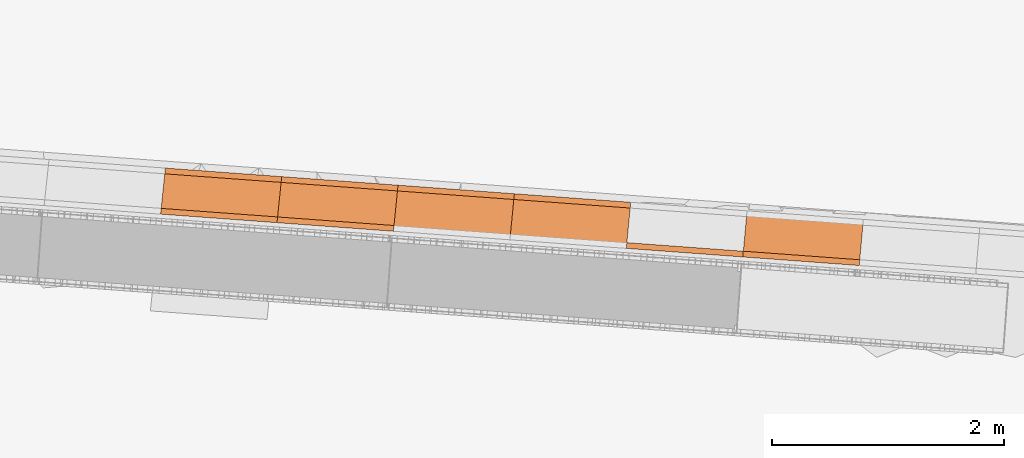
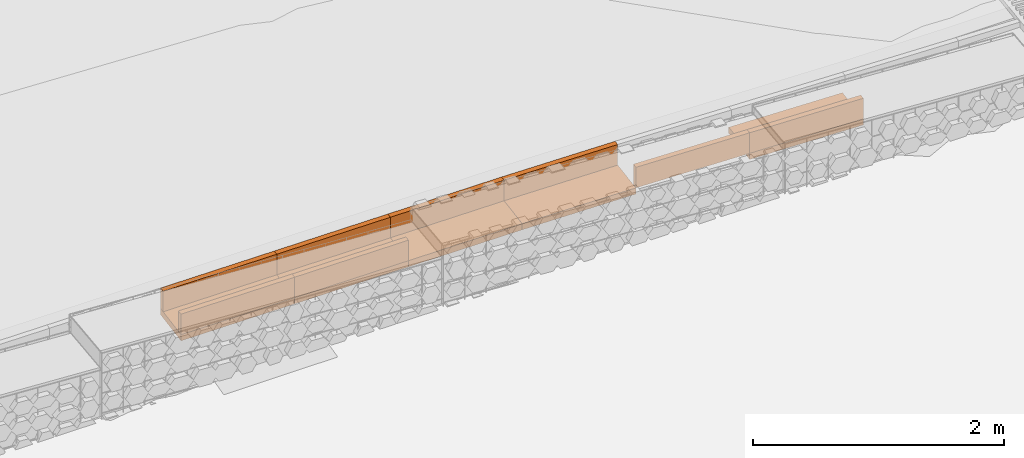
# Not in any storey, part 39 of 45: 13 proxies.
"""IFC4 model written with IfcOpenShell, lengths in metres."""

import ifcopenshell
import ifcopenshell.guid

model = None  # the IFC model being written
_history = None  # IfcOwnerHistory: only IFC2X3 demands one
_inside = {}  # id of a spatial element -> (the spatial element, [elements in it])
_under = {}  # id of a project, library or spatial element -> (it, [spatial elements below it])
_declared = {}  # id of a project -> (the project, [libraries it declares])
_typed = {}  # id of a type object -> (the type object, [elements of that type])
_made_of = {}  # id of a material, layer set ... -> (it, [elements and type objects made of it])


def new_model(schema):
    """Start an empty IFC model of exactly this schema.

    Asked for "IFC4X3", IfcOpenShell would pick the latest addendum, in which some entities
    have other attributes; the version numbers below select the first issue.
    IFC2X3 requires an IfcOwnerHistory on every rooted entity: one is made here for all.
    """
    global model, _history
    if schema == "IFC4X3":
        model = ifcopenshell.file(schema_version=(4, 3, 0, 0))
    else:
        model = ifcopenshell.file(schema=schema)
    _inside.clear()
    _under.clear()
    _declared.clear()
    _typed.clear()
    _made_of.clear()
    _history = None
    if model.schema == "IFC2X3":
        org = make("IfcOrganization", Name="unknown")
        user = make(
            "IfcPersonAndOrganization",
            ThePerson=make("IfcPerson", FamilyName="unknown"),
            TheOrganization=org,
        )
        app = make(
            "IfcApplication",
            ApplicationDeveloper=org,
            Version="unknown",
            ApplicationFullName="unknown",
            ApplicationIdentifier="unknown",
        )
        _history = make(
            "IfcOwnerHistory",
            OwningUser=user,
            OwningApplication=app,
            ChangeAction="ADDED",
            CreationDate=0,
        )
    return model


def make(cls, **values):
    """One entity of the class cls with the attributes given. An attribute that is None is left unset."""
    return model.create_entity(
        cls, **{name: value for name, value in values.items() if value is not None}
    )


def rooted(cls, **values):
    """An entity with a GlobalId (a new one), such as an element, a storey or a relation."""
    return make(cls, GlobalId=ifcopenshell.guid.new(), OwnerHistory=_history, **values)


def si_unit(unit_type, name, prefix=None):
    """IfcSIUnit, for example si_unit("LENGTHUNIT", "METRE", prefix="MILLI")."""
    return make("IfcSIUnit", UnitType=unit_type, Prefix=prefix, Name=name)


def assignment(units):
    """IfcUnitAssignment: the units of a project."""
    return None if units is None else make("IfcUnitAssignment", Units=units)


def point(xyz):
    """IfcCartesianPoint."""
    return None if xyz is None else make("IfcCartesianPoint", Coordinates=xyz)


def direction(xyz):
    """IfcDirection."""
    return None if xyz is None else make("IfcDirection", DirectionRatios=xyz)


def frame(location, z_axis=None, x_axis=None):
    """IfcAxis2Placement3D, a coordinate frame: its origin and axes. An axis left out is left unset."""
    return make(
        "IfcAxis2Placement3D",
        Location=point(location),
        Axis=direction(z_axis),
        RefDirection=direction(x_axis),
    )


def origin_with_axes():
    """The frame at (0, 0, 0) with the z axis (0, 0, 1) and the x axis (1, 0, 0) written out."""
    return frame((0.0, 0.0, 0.0), z_axis=(0.0, 0.0, 1.0), x_axis=(1.0, 0.0, 0.0))


def place(relative_to, where):
    """IfcLocalPlacement: puts the frame where relative to a parent placement (None: the world)."""
    return make(
        "IfcLocalPlacement", PlacementRelTo=relative_to, RelativePlacement=where
    )


def context(
    kind, dimensions, precision=None, world=None, true_north=None, identifier=None
):
    """IfcGeometricRepresentationContext, for example the 3D "Model" context."""
    return make(
        "IfcGeometricRepresentationContext",
        ContextIdentifier=identifier,
        ContextType=kind,
        CoordinateSpaceDimension=dimensions,
        Precision=precision,
        WorldCoordinateSystem=world,
        TrueNorth=true_north,
    )


def subcontext(parent, identifier, kind, view, scale=None):
    """IfcGeometricRepresentationSubContext, for example "Body" below "Model"."""
    return make(
        "IfcGeometricRepresentationSubContext",
        ContextIdentifier=identifier,
        ContextType=kind,
        ParentContext=parent,
        TargetScale=scale,
        TargetView=view,
    )


def project(units=None, contexts=None):
    """IfcProject with its units and contexts."""
    return rooted(
        "IfcProject",
        Name="project",
        RepresentationContexts=contexts,
        UnitsInContext=assignment(units),
    )


def spatial(cls, under=None, at=None, **own):
    """A site, building, storey or space (cls), placed at a placement, below another one or the project."""
    s = rooted(cls, ObjectPlacement=at, **own)
    if under is not None:
        _under.setdefault(under.id(), (under, []))[1].append(s)
    return s


def point_list(points):
    """IfcCartesianPointList2D or 3D."""
    cls = (
        "IfcCartesianPointList2D" if len(points[0]) == 2 else "IfcCartesianPointList3D"
    )
    return make(cls, CoordList=points)


def polygons(points, faces, closed=None, point_numbers=None):
    """IfcPolygonalFaceSet: a face is its outer loop, then its inner loops; points numbered from 1."""
    made = []
    for loops in faces:
        if len(loops) == 1:
            made.append(make("IfcIndexedPolygonalFace", CoordIndex=loops[0]))
        else:
            made.append(
                make(
                    "IfcIndexedPolygonalFaceWithVoids",
                    CoordIndex=loops[0],
                    InnerCoordIndices=loops[1:],
                )
            )
    return make(
        "IfcPolygonalFaceSet",
        Coordinates=point_list(points),
        Closed=closed,
        Faces=made,
        PnIndex=point_numbers,
    )


def shape(context_of_items, identifier, shape_type, items):
    """IfcShapeRepresentation: the items that make up one representation, for example the "Body"."""
    return make(
        "IfcShapeRepresentation",
        ContextOfItems=context_of_items,
        RepresentationIdentifier=identifier,
        RepresentationType=shape_type,
        Items=items,
    )


def material(Name=None, Category=None):
    """IfcMaterial."""
    return make("IfcMaterial", Name=Name, Category=Category)


def made_of(thing, what):
    """Note that an element or type object is made of a material, layer set ...; save() writes the relation."""
    if what is not None:
        _made_of.setdefault(what.id(), (what, []))[1].append(thing)
    return thing


def element(
    cls,
    number,
    at=None,
    inside=None,
    cuts=None,
    type_object=None,
    material=None,
    context=None,
    identifier="Body",
    shape_type=None,
    held_by="IfcProductDefinitionShape",
    body=None,
    shapes=None,
    **own,
):
    """One element of the class cls, such as IfcWall. Its Tag is "e" and its number.

    at: its placement. inside: the storey or other place that contains it. cuts: it is an
    opening in that element (IfcRelVoidsElement). A single representation is given by context,
    identifier, shape_type and body (its items); several are given by shapes. held_by: the class
    of the entity that holds the representations. save() writes the other relations.
    """
    e = rooted(cls, Tag="e%d" % number, ObjectPlacement=at, **own)
    if body is not None:
        shapes = [shape(context, identifier, shape_type, body)]
    if shapes is not None:
        e.Representation = make(held_by, Representations=shapes)
    if inside is not None:
        _inside.setdefault(inside.id(), (inside, []))[1].append(e)
    if cuts is not None:
        rooted(
            "IfcRelVoidsElement", RelatingBuildingElement=cuts, RelatedOpeningElement=e
        )
    if type_object is not None:
        _typed.setdefault(type_object.id(), (type_object, []))[1].append(e)
    return made_of(e, material)


def aggregate(whole, parts):
    """IfcRelAggregates: a whole, such as a stair, and the parts it consists of."""
    return rooted("IfcRelAggregates", RelatingObject=whole, RelatedObjects=parts)


def save(model, path):
    """Write the relations noted so far, then the file.

    IfcRelAggregates (storeys below a building ...), IfcRelContainedInSpatialStructure (elements
    in a storey), IfcRelDefinesByType, IfcRelAssociatesMaterial and IfcRelDeclares: one each for
    every whole, place, type object, material and project.
    """
    for whole, parts in _under.values():
        aggregate(whole, parts)
    for where, things in _inside.values():
        rooted(
            "IfcRelContainedInSpatialStructure",
            RelatedElements=things,
            RelatingStructure=where,
        )
    for kind, things in _typed.values():
        rooted("IfcRelDefinesByType", RelatedObjects=things, RelatingType=kind)
    for what, things in _made_of.values():
        rooted("IfcRelAssociatesMaterial", RelatedObjects=things, RelatingMaterial=what)
    for by, libraries in _declared.values():
        rooted("IfcRelDeclares", RelatingContext=by, RelatedDefinitions=libraries)
    model.write(path)


model = new_model("IFC4")

# Units and contexts
model_context = context("Model", 3, precision=1e-05, world=origin_with_axes(), true_north=direction((0.0, 1.0)))
body_context = subcontext(model_context, "Body", "Model", "MODEL_VIEW")
ifc_project = project(units=[si_unit("VOLUMEUNIT", "CUBIC_METRE"), si_unit("LENGTHUNIT", "METRE"), si_unit("AREAUNIT", "SQUARE_METRE")], contexts=[model_context])

# Site
site_placement = place(None, origin_with_axes())
site = spatial("IfcSite", under=ifc_project, at=site_placement, Name="Lares · Rua das Mercês · artigo 4771")

# Proxies
ifc_material = material(Name="Caleiras · betão", Category="concrete")
proxy_1_placement = place(site_placement, frame((0.0, 0.0, 0.0), z_axis=(0.0, 0.0, 1.0), x_axis=(1.0, -1.03767253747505e-17, 0.0)))
element("IfcBuildingElementProxy", 1, at=proxy_1_placement, inside=site, material=ifc_material, Name="Acesso · canal lateral", ObjectType="Acesso · canal lateral", PredefinedType="USERDEFINED", context=body_context, shape_type="Tessellation", body=[
    polygons([(74.7098133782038, 0.677607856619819, 15.5669565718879), (74.7512334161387, 1.07545755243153, 15.5669565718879), (75.7561439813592, 1.00156402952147, 15.620563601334), (75.7147239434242, 0.603714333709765, 15.620563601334), (74.7098133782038, 0.677607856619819, 15.6269565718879), (74.7512334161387, 1.07545755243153, 15.6269565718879), (75.7561439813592, 1.00156402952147, 15.680563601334), (75.7147239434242, 0.603714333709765, 15.680563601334)], [[[4, 3, 2, 1]], [[5, 6, 7, 8]], [[1, 2, 6, 5]], [[2, 3, 7, 6]], [[3, 4, 8, 7]], [[4, 1, 5, 8]]]),
])
proxy_2_placement = place(site_placement, frame((0.0, 0.0, 0.0), z_axis=(0.0, 0.0, 1.0), x_axis=(1.0, -1.03767253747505e-17, 0.0)))
element("IfcBuildingElementProxy", 2, at=proxy_2_placement, inside=site, material=ifc_material, Name="Acesso · canal lateral", ObjectType="Acesso · canal lateral", PredefinedType="USERDEFINED", context=body_context, shape_type="Tessellation", body=[
    polygons([(74.7098133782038, 0.677607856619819, 15.6269565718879), (74.7149908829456, 0.727339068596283, 15.6269565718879), (75.7199014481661, 0.653445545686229, 15.680563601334), (75.7147239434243, 0.603714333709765, 15.680563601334), (74.7098133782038, 0.677607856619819, 15.8269565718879), (74.7149908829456, 0.727339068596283, 15.8269565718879), (75.7199014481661, 0.653445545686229, 15.880563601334), (75.7147239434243, 0.603714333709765, 15.880563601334)], [[[4, 3, 2, 1]], [[5, 6, 7, 8]], [[1, 2, 6, 5]], [[2, 3, 7, 6]], [[3, 4, 8, 7]], [[4, 1, 5, 8]]]),
])
proxy_3_placement = place(site_placement, frame((0.0, 0.0, 0.0), z_axis=(0.0, 0.0, 1.0), x_axis=(1.0, -1.03767253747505e-17, 0.0)))
element("IfcBuildingElementProxy", 3, at=proxy_3_placement, inside=site, material=ifc_material, Name="Acesso · canal lateral", ObjectType="Acesso · canal lateral", PredefinedType="USERDEFINED", context=body_context, shape_type="Tessellation", body=[
    polygons([(74.7460559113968, 1.02572634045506, 15.6269565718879), (74.7512334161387, 1.07545755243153, 15.6269565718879), (75.7561439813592, 1.00156402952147, 15.680563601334), (75.7509664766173, 0.95183281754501, 15.680563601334), (74.7460559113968, 1.02572634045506, 15.8269565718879), (74.7512334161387, 1.07545755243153, 15.8269565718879), (75.7561439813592, 1.00156402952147, 15.880563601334), (75.7509664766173, 0.95183281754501, 15.880563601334)], [[[4, 3, 2, 1]], [[5, 6, 7, 8]], [[1, 2, 6, 5]], [[2, 3, 7, 6]], [[3, 4, 8, 7]], [[4, 1, 5, 8]]]),
])
proxy_4_placement = place(site_placement, frame((0.0, 0.0, 0.0), z_axis=(0.0, 0.0, 1.0), x_axis=(1.0, -1.03767253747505e-17, 0.0)))
element("IfcBuildingElementProxy", 4, at=proxy_4_placement, inside=site, material=ifc_material, Name="Acesso · canal lateral", ObjectType="Acesso · canal lateral", PredefinedType="USERDEFINED", context=body_context, shape_type="Tessellation", body=[
    polygons([(75.7151947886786, 0.603665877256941, 15.620563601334), (75.7556731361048, 1.0016124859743, 15.620563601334), (76.760604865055, 0.927718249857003, 15.6741706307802), (76.7201265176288, 0.529771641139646, 15.6741706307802), (75.7151947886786, 0.603665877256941, 15.680563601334), (75.7556731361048, 1.0016124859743, 15.680563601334), (76.760604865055, 0.927718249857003, 15.7341706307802), (76.7201265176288, 0.529771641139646, 15.7341706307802)], [[[4, 3, 2, 1]], [[5, 6, 7, 8]], [[1, 2, 6, 5]], [[2, 3, 7, 6]], [[3, 4, 8, 7]], [[4, 1, 5, 8]]]),
])
proxy_5_placement = place(site_placement, frame((0.0, 0.0, 0.0), z_axis=(0.0, 0.0, 1.0), x_axis=(1.0, -1.03767253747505e-17, 0.0)))
element("IfcBuildingElementProxy", 5, at=proxy_5_placement, inside=site, material=ifc_material, Name="Acesso · canal lateral", ObjectType="Acesso · canal lateral", PredefinedType="USERDEFINED", context=body_context, shape_type="Tessellation", body=[
    polygons([(75.7151947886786, 0.603665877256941, 15.680563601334), (75.7202545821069, 0.653409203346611, 15.680563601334), (76.725186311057, 0.579514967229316, 15.7341706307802), (76.7201265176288, 0.529771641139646, 15.7341706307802), (75.7151947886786, 0.603665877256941, 15.880563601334), (75.7202545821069, 0.653409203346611, 15.880563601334), (76.725186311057, 0.579514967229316, 15.9341706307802), (76.7201265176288, 0.529771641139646, 15.9341706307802)], [[[4, 3, 2, 1]], [[5, 6, 7, 8]], [[1, 2, 6, 5]], [[2, 3, 7, 6]], [[3, 4, 8, 7]], [[4, 1, 5, 8]]]),
])
proxy_6_placement = place(site_placement, frame((0.0, 0.0, 0.0), z_axis=(0.0, 0.0, 1.0), x_axis=(1.0, -1.03767253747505e-17, 0.0)))
element("IfcBuildingElementProxy", 6, at=proxy_6_placement, inside=site, material=ifc_material, Name="Acesso · canal lateral", ObjectType="Acesso · canal lateral", PredefinedType="USERDEFINED", context=body_context, shape_type="Tessellation", body=[
    polygons([(75.7506133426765, 0.951869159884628, 15.680563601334), (75.7556731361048, 1.0016124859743, 15.680563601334), (76.760604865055, 0.927718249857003, 15.7341706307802), (76.7555450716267, 0.877974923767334, 15.7341706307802), (75.7506133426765, 0.951869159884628, 15.880563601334), (75.7556731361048, 1.0016124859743, 15.880563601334), (76.760604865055, 0.927718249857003, 15.9341706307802), (76.7555450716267, 0.877974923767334, 15.9341706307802)], [[[4, 3, 2, 1]], [[5, 6, 7, 8]], [[1, 2, 6, 5]], [[2, 3, 7, 6]], [[3, 4, 8, 7]], [[4, 1, 5, 8]]]),
])
proxy_7_placement = place(site_placement, frame((0.0, 0.0, 0.0), z_axis=(0.0, 0.0, 1.0), x_axis=(1.0, -1.03767253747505e-17, 0.0)))
element("IfcBuildingElementProxy", 7, at=proxy_7_placement, inside=site, material=ifc_material, Name="Acesso · canal lateral", ObjectType="Acesso · canal lateral", PredefinedType="USERDEFINED", context=body_context, shape_type="Tessellation", body=[
    polygons([(76.7206140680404, 0.52972265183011, 15.6741706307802), (76.7601173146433, 0.927767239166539, 15.6741706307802), (77.7650713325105, 0.85387233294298, 15.7277776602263), (77.7255680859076, 0.455827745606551, 15.7277776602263), (76.7206140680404, 0.52972265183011, 15.7341706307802), (76.7601173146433, 0.927767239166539, 15.7341706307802), (77.7650713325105, 0.85387233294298, 15.7877776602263), (77.7255680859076, 0.455827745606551, 15.7877776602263)], [[[4, 3, 2, 1]], [[5, 6, 7, 8]], [[1, 2, 6, 5]], [[2, 3, 7, 6]], [[3, 4, 8, 7]], [[4, 1, 5, 8]]]),
])
proxy_8_placement = place(site_placement, frame((0.0, 0.0, 0.0), z_axis=(0.0, 0.0, 1.0), x_axis=(1.0, -1.03767253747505e-17, 0.0)))
element("IfcBuildingElementProxy", 8, at=proxy_8_placement, inside=site, material=ifc_material, Name="Acesso · canal lateral", ObjectType="Acesso · canal lateral", PredefinedType="USERDEFINED", context=body_context, shape_type="Tessellation", body=[
    polygons([(76.755179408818, 0.878011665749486, 15.7341706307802), (76.7601173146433, 0.927767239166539, 15.7341706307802), (77.7650713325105, 0.85387233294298, 15.7877776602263), (77.7601334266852, 0.804116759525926, 15.7877776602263), (76.755179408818, 0.878011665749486, 15.9341706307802), (76.7601173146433, 0.927767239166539, 15.9341706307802), (77.7650713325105, 0.85387233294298, 15.9877776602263), (77.7601334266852, 0.804116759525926, 15.9877776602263)], [[[4, 3, 2, 1]], [[5, 6, 7, 8]], [[1, 2, 6, 5]], [[2, 3, 7, 6]], [[3, 4, 8, 7]], [[4, 1, 5, 8]]]),
])
proxy_9_placement = place(site_placement, frame((0.0, 0.0, 0.0), z_axis=(0.0, 0.0, 1.0), x_axis=(1.0, -1.03767253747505e-17, 0.0)))
element("IfcBuildingElementProxy", 9, at=proxy_9_placement, inside=site, material=ifc_material, Name="Acesso · canal lateral", ObjectType="Acesso · canal lateral", PredefinedType="USERDEFINED", context=body_context, shape_type="Tessellation", body=[
    polygons([(77.7260732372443, 0.455778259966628, 15.7277776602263), (77.7645661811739, 0.853921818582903, 15.7277776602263), (78.7695436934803, 0.780026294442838, 15.7690898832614), (78.7310507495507, 0.381882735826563, 15.7690898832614), (77.7260732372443, 0.455778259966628, 15.7877776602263), (77.7645661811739, 0.853921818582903, 15.7877776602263), (78.7695436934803, 0.780026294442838, 15.8290898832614), (78.7310507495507, 0.381882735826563, 15.8290898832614)], [[[4, 3, 2, 1]], [[5, 6, 7, 8]], [[1, 2, 6, 5]], [[2, 3, 7, 6]], [[3, 4, 8, 7]], [[4, 1, 5, 8]]]),
])
proxy_10_placement = place(site_placement, frame((0.0, 0.0, 0.0), z_axis=(0.0, 0.0, 1.0), x_axis=(1.0, -1.03767253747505e-17, 0.0)))
element("IfcBuildingElementProxy", 10, at=proxy_10_placement, inside=site, material=ifc_material, Name="Acesso · canal lateral", ObjectType="Acesso · canal lateral", PredefinedType="USERDEFINED", context=body_context, shape_type="Tessellation", body=[
    polygons([(77.7597545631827, 0.804153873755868, 15.7877776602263), (77.7645661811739, 0.853921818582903, 15.7877776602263), (78.7695436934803, 0.780026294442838, 15.8290898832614), (78.7647320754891, 0.730258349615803, 15.8290898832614), (77.7597545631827, 0.804153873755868, 15.9877776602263), (77.7645661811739, 0.853921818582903, 15.9877776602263), (78.7695436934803, 0.780026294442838, 16.0290898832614), (78.7647320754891, 0.730258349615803, 16.0290898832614)], [[[4, 3, 2, 1]], [[5, 6, 7, 8]], [[1, 2, 6, 5]], [[2, 3, 7, 6]], [[3, 4, 8, 7]], [[4, 1, 5, 8]]]),
])
proxy_11_placement = place(site_placement, frame((0.0, 0.0, 0.0), z_axis=(0.0, 0.0, 1.0), x_axis=(1.0, -1.03767253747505e-17, 0.0)))
element("IfcBuildingElementProxy", 11, at=proxy_11_placement, inside=site, material=ifc_material, Name="Acesso · canal lateral", ObjectType="Acesso · canal lateral", PredefinedType="USERDEFINED", context=body_context, shape_type="Tessellation", body=[
    polygons([(78.7315744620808, 0.381832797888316, 15.8290898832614), (78.7362551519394, 0.431613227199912, 15.8290898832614), (79.7412574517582, 0.357717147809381, 15.8586969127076), (79.7365767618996, 0.307936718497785, 15.8586969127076), (78.7315744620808, 0.381832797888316, 16.0290898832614), (78.7362551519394, 0.431613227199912, 16.0290898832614), (79.7412574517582, 0.357717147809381, 16.0586969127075), (79.7365767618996, 0.307936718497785, 16.0586969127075)], [[[4, 3, 2, 1]], [[5, 6, 7, 8]], [[1, 2, 6, 5]], [[2, 3, 7, 6]], [[3, 4, 8, 7]], [[4, 1, 5, 8]]]),
])
proxy_12_placement = place(site_placement, frame((0.0, 0.0, 0.0), z_axis=(0.0, 0.0, 1.0), x_axis=(1.0, -1.03767253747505e-17, 0.0)))
element("IfcBuildingElementProxy", 12, at=proxy_12_placement, inside=site, material=ifc_material, Name="Acesso · canal lateral", ObjectType="Acesso · canal lateral", PredefinedType="USERDEFINED", context=body_context, shape_type="Tessellation", body=[
    polygons([(79.7371200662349, 0.30788638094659, 15.7986969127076), (79.7734789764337, 0.706230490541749, 15.7986969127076), (80.7785074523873, 0.632333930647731, 15.8283039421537), (80.7421485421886, 0.233989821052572, 15.8283039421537), (79.7371200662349, 0.30788638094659, 15.8586969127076), (79.7734789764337, 0.706230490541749, 15.8586969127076), (80.7785074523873, 0.632333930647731, 15.8883039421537), (80.7421485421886, 0.233989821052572, 15.8883039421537)], [[[4, 3, 2, 1]], [[5, 6, 7, 8]], [[1, 2, 6, 5]], [[2, 3, 7, 6]], [[3, 4, 8, 7]], [[4, 1, 5, 8]]]),
])
proxy_13_placement = place(site_placement, frame((0.0, 0.0, 0.0), z_axis=(0.0, 0.0, 1.0), x_axis=(1.0, -1.03767253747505e-17, 0.0)))
element("IfcBuildingElementProxy", 13, at=proxy_13_placement, inside=site, material=ifc_material, Name="Acesso · canal lateral", ObjectType="Acesso · canal lateral", PredefinedType="USERDEFINED", context=body_context, shape_type="Tessellation", body=[
    polygons([(79.7371200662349, 0.30788638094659, 15.8586969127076), (79.7416649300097, 0.357679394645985, 15.8586969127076), (80.7466934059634, 0.283782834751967, 15.8883039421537), (80.7421485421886, 0.233989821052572, 15.8883039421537), (79.7371200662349, 0.30788638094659, 16.0586969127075), (79.7416649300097, 0.357679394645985, 16.0586969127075), (80.7466934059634, 0.283782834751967, 16.0883039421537), (80.7421485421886, 0.233989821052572, 16.0883039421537)], [[[4, 3, 2, 1]], [[5, 6, 7, 8]], [[1, 2, 6, 5]], [[2, 3, 7, 6]], [[3, 4, 8, 7]], [[4, 1, 5, 8]]]),
])

save(model, "model.ifc")
